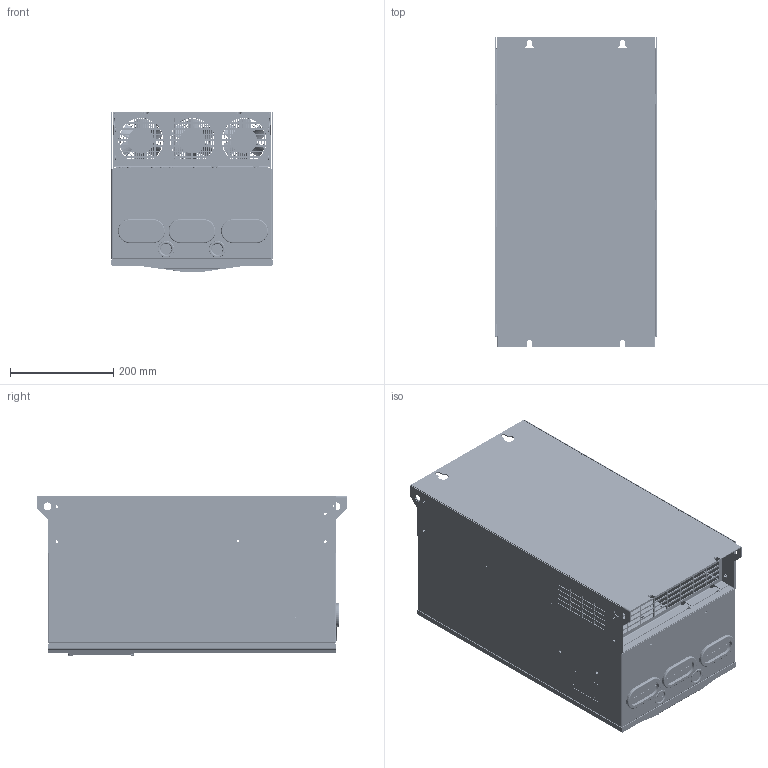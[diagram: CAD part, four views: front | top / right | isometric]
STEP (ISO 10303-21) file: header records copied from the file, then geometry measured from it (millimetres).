
FILE_DESCRIPTION((''),'2;1');
FILE_NAME('T7_ASM','2024-03-28T13:30:02',('dyliuk'),(''),'CREO PARAMETRIC BY PTC INC, 2020044','CREO PARAMETRIC BY PTC INC, 2020044','');
FILE_SCHEMA(('CONFIG_CONTROL_DESIGN','SHAPE_APPEARANCE_LAYERS_GROUPS'));
Products named in the file (66): 8423V1605_26_1; 55T-BOX_68_1; TUOBAN-BOX_76_1; S00S-M4-21-ZI_14_1; S-M4-2_36_1; DTB_ASM_111_ASM_1_ASM; 5040V1604_12_1; 5040V1604_ASM_17_ASM_1_ASM; 5355V1602_49_1; S-M5-2_31_1; 5040V1635_9_1; 5040V1635_ASM_12_ASM_1_ASM; 5355V1602_ASM_127_ASM_1_ASM; 5040V1606_14_1; 5040V1606_ASM_18_ASM_1_ASM; 5355V1603_ASM_84_ASM_1_ASM; 5048V1605_37_1; 5048V1605_ASM_20_ASM_1_ASM; 2121003143_13_1_1; 2121003143_13_2_1; 2121003143_13_ASM_1_ASM; 5325V1603_31_1; 5325V1603_ASM_104_ASM_1_ASM; 2100201028_11_1; 2100201021_10_1; 5022V1602_36_1; DIANRONG-JUEYUAN-55T_1_1; 5022V1602_ASM_69_ASM_1_ASM; 8055V1602_67_1; 5022V1603_ASM_32_ASM_1_ASM; BOX_ASM_145_ASM_1_ASM; 5040V1605_10_1; 5040V1605_ASM_18_ASM_1_ASM; 8048V1618_15_1; 0-PLAY-BOX-ASM_ASM-20210702_ASM_ASM; 8315V1613_30_1; 8325V1619_16_1; TPS-3-6_6_1; 5315V1603_ASM_44_ASM_1_ASM; 8315V1614_22_1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
Assembly tree (175 placements, depth 7):
  T7_ASM
    2971V1636_ASM_133_ASM_1_ASM
      8423V1605_26_1
      BOX_ASM_145_ASM_1_ASM
        55T-BOX_68_1
        DTB_ASM_111_ASM_1_ASM
          TUOBAN-BOX_76_1
          S00S-M4-21-ZI_14_1  x6
          S-M4-2_36_1  x17
        5040V1604_ASM_17_ASM_1_ASM  x2
          5040V1604_12_1
          S-M4-2_36_1
        5355V1603_ASM_84_ASM_1_ASM
          5355V1602_ASM_127_ASM_1_ASM
            5355V1602_49_1
            S-M5-2_31_1  x2
            5040V1635_ASM_12_ASM_1_ASM  x4
              5040V1635_9_1
              S-M4-2_36_1
          5040V1606_ASM_18_ASM_1_ASM  x4
            5040V1606_14_1
            S-M4-2_36_1
        5048V1605_ASM_20_ASM_1_ASM
          5048V1605_37_1
          S-M4-2_36_1  x12
          S-M5-2_31_1  x4
        2121003143_13_ASM_1_ASM  x3
          2121003143_13_1_1
          2121003143_13_2_1
        5325V1603_ASM_104_ASM_1_ASM
          5325V1603_31_1
          S-M5-2_31_1  x4
        5040V1606_ASM_18_ASM_1_ASM  x2
          5040V1606_14_1
          S-M4-2_36_1
        2100201028_11_1  x2
        2100201021_10_1  x3
        5022V1603_ASM_32_ASM_1_ASM
          5022V1602_ASM_69_ASM_1_ASM
            5022V1602_36_1
            S00S-M4-21-ZI_14_1  x6
            S-M4-2_36_1  x17
            S-M5-2_31_1  x4
            DIANRONG-JUEYUAN-55T_1_1
          8055V1602_67_1
          5040V1604_ASM_17_ASM_1_ASM  x2
            5040V1604_12_1
            S-M4-2_36_1
      5040V1605_ASM_18_ASM_1_ASM
        5040V1605_10_1
        S-M5-2_31_1  x2
        S-M4-2_36_1  x2
      TOP-COVER_ASM_44_ASM_1_ASM
        0-PLAY-BOX-ASM_ASM-20210702_ASM_ASM
          8048V1618_15_1
        5315V1603_ASM_44_ASM_1_ASM
          8315V1613_30_1
          8325V1619_16_1
          TPS-3-6_6_1
        5315V1606_ASM_15_ASM_1_ASM
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Bounding box: 313 x 600 x 310.03 mm (x, y, z)
Volume: 5447809.5 mm3; surface area: 6264641.1 mm2
Topology: 165 solids, 198 shells, 18716 faces, 51868 edges, 34334 vertices
Faces by surface type: plane 15949, cylinder 2145, torus 332, bspline 131, extrusion 115, cone 32, sphere 8, revolution 4
Entity records: 233685 total; most frequent: CARTESIAN_POINT 47288, ORIENTED_EDGE 31951, DIRECTION 30374, EDGE_CURVE 16085, VECTOR 12264, LINE 12149, VERTEX_POINT 10574, AXIS2_PLACEMENT_3D 9053
